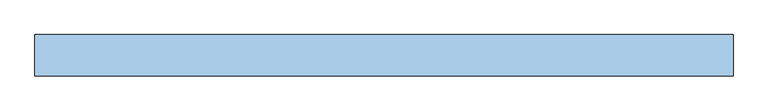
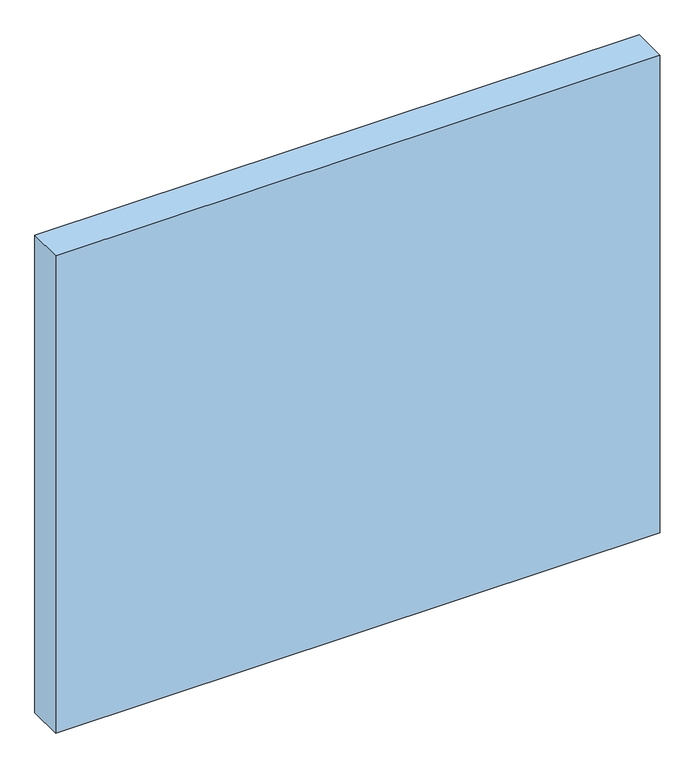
"""IFC4 building model written with IfcOpenShell, lengths in millimetres: window geometry, Dr_Проем-Четверти_окно : ОК."""

from ifc_helpers import new_model, si_unit, frame, origin, place, context, project, spatial, polyline, outline, extrude, source, transform, mapped, element, save


def window_f3a5b8b0(model_context):
    return source(origin(), model_context, "Body", "SweptSolid", [
        extrude(outline(polyline([(1405.0, -50.0), (-1135.0, -50.0), (-1135.0, 100.0), (1405.0, 100.0), (1405.0, -50.0)])), frame((0.0, 0.0, -60.0), z_axis=(0.0, 0.0, 1.0), x_axis=(1.0, 0.0, 0.0)), (0.0, 0.0, 1.0), 2120.0),
    ])


if __name__ == "__main__":
    model = new_model("IFC4")
    model_context = context("Model", 3, world=origin())
    ifc_project = project(units=[si_unit("LENGTHUNIT", "METRE", prefix="MILLI")], contexts=[model_context])
    site = spatial("IfcSite", under=ifc_project)
    building = spatial("IfcBuilding", under=site)
    placement = place(None, origin())
    window_shape = window_f3a5b8b0(model_context)
    element("IfcWindow", 1, ObjectType="Dr_Проем-Четверти_окно : ОК", at=placement, inside=building, context=model_context, shape_type="MappedRepresentation", body=[
        mapped(window_shape, transform((0.0, 0.0, 0.0), x_axis=(1.0, 0.0, 0.0), y_axis=(0.0, 1.0, 0.0), z_axis=(0.0, 0.0, 1.0))),
    ])
    save(model, "model.ifc")
